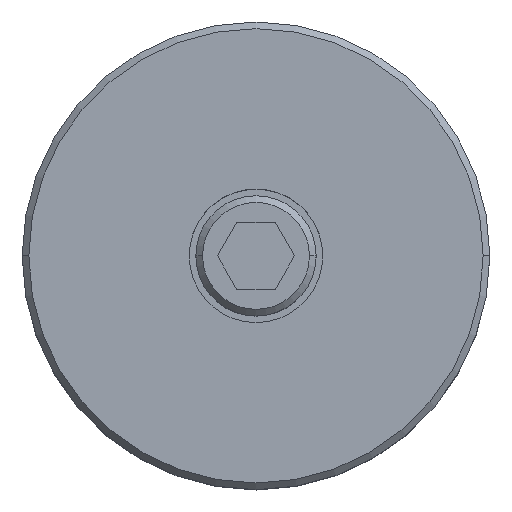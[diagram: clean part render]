
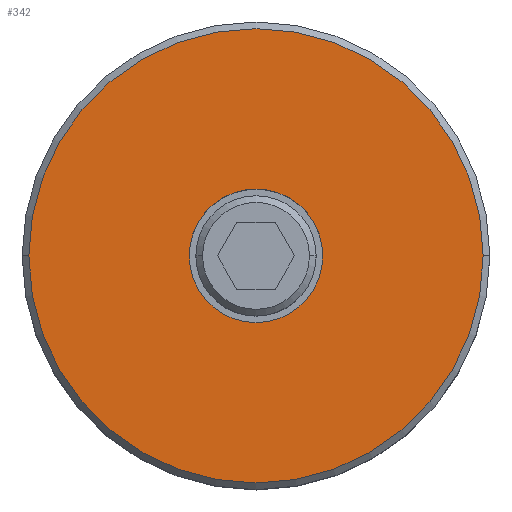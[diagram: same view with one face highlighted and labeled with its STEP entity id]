
A CAD part, top view. The second image highlights one B-rep face of the part: STEP entity #342.
In plain terms, the highlighted planar face has unit normal (0, 0, 1).
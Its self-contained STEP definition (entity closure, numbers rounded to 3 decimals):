
#101=VERTEX_POINT(' ',#102);
#102=CARTESIAN_POINT('',(-10.,0.,30.));
#103=VERTEX_POINT(' ',#104);
#104=CARTESIAN_POINT('',(10.,0.,30.));
#105=VERTEX_POINT(' ',#106);
#106=CARTESIAN_POINT('',(-34.,0.,30.));
#107=VERTEX_POINT(' ',#108);
#108=CARTESIAN_POINT('',(34.,0.,30.));
#172=CIRCLE('',#173,10.);
#173=AXIS2_PLACEMENT_3D('',#174,#175,#176);
#174=CARTESIAN_POINT('',(0.,0.,30.));
#175=DIRECTION('',(0.,0.,-1.));
#176=DIRECTION('',(0.,1.,0.));
#177=EDGE_CURVE(' ',#103,#101,#172,.T.);
#183=CIRCLE('',#184,10.);
#184=AXIS2_PLACEMENT_3D('',#185,#186,#187);
#185=CARTESIAN_POINT('',(0.,0.,30.));
#186=DIRECTION('',(0.,0.,-1.));
#187=DIRECTION('',(0.,-1.,0.));
#188=EDGE_CURVE(' ',#101,#103,#183,.T.);
#189=CIRCLE('',#190,34.);
#190=AXIS2_PLACEMENT_3D('',#191,#192,#193);
#191=CARTESIAN_POINT('',(0.,0.,30.));
#192=DIRECTION('',(0.,0.,-1.));
#193=DIRECTION('',(0.,1.,0.));
#194=EDGE_CURVE(' ',#107,#105,#189,.T.);
#195=CIRCLE('',#196,34.);
#196=AXIS2_PLACEMENT_3D('',#197,#198,#199);
#197=CARTESIAN_POINT('',(0.,0.,30.));
#198=DIRECTION('',(0.,0.,-1.));
#199=DIRECTION('',(0.,-1.,0.));
#200=EDGE_CURVE(' ',#105,#107,#195,.T.);
#329=ORIENTED_EDGE('',*,*,#194,.F.);
#330=ORIENTED_EDGE('',*,*,#200,.F.);
#331=EDGE_LOOP('',(#329,#330));
#332=FACE_OUTER_BOUND('',#331,.T.);
#333=ORIENTED_EDGE('',*,*,#188,.T.);
#334=ORIENTED_EDGE('',*,*,#177,.T.);
#335=EDGE_LOOP('',(#333,#334));
#336=FACE_BOUND('',#335,.T.);
#337=PLANE('',#338);
#338=AXIS2_PLACEMENT_3D('',#339,#340,#341);
#339=CARTESIAN_POINT('',(0.,0.,30.));
#340=DIRECTION('',(0.,0.,1.));
#341=DIRECTION('',(0.,1.,0.));
#342=ADVANCED_FACE('',(#332,#336),#337,.T.);
